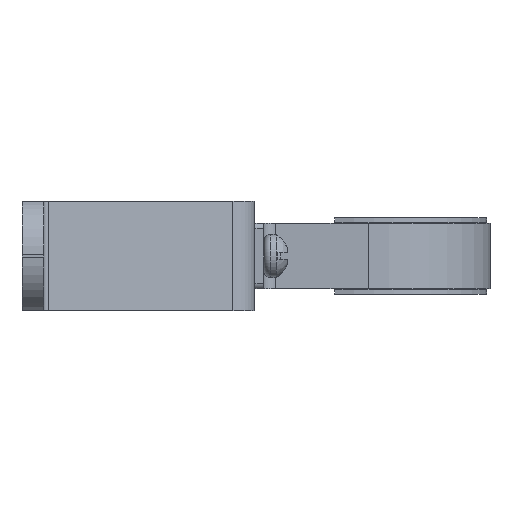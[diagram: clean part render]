
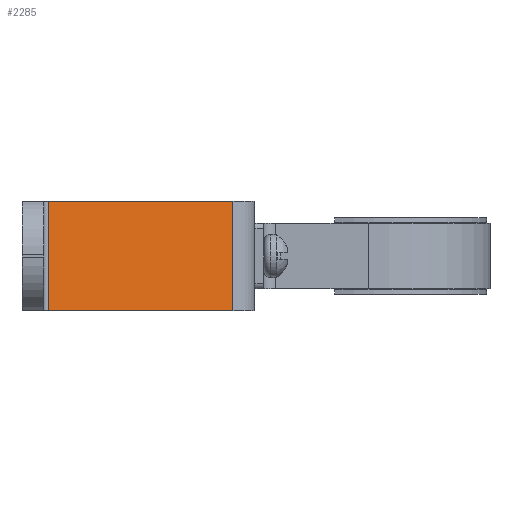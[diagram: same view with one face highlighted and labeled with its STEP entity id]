
A CAD part, front view. The second image highlights one B-rep face of the part: STEP entity #2285.
In plain terms, the highlighted planar face has unit normal (0.215, -0.977, 0).
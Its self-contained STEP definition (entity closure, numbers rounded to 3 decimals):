
#138=PLANE('',#2514);
#243=FACE_OUTER_BOUND('',#368,.T.);
#368=EDGE_LOOP('',(#1963,#1964,#1965,#1966));
#524=LINE('',#4061,#708);
#540=LINE('',#4111,#724);
#544=LINE('',#4124,#728);
#545=LINE('',#4126,#729);
#708=VECTOR('',#2991,10.);
#724=VECTOR('',#3033,10.);
#728=VECTOR('',#3047,10.);
#729=VECTOR('',#3050,10.);
#1054=VERTEX_POINT('',#4058);
#1055=VERTEX_POINT('',#4060);
#1075=VERTEX_POINT('',#4108);
#1076=VERTEX_POINT('',#4110);
#1359=EDGE_CURVE('',#1054,#1055,#524,.T.);
#1385=EDGE_CURVE('',#1075,#1076,#540,.T.);
#1392=EDGE_CURVE('',#1055,#1075,#544,.T.);
#1393=EDGE_CURVE('',#1054,#1076,#545,.T.);
#1963=ORIENTED_EDGE('',*,*,#1393,.T.);
#1964=ORIENTED_EDGE('',*,*,#1385,.F.);
#1965=ORIENTED_EDGE('',*,*,#1392,.F.);
#1966=ORIENTED_EDGE('',*,*,#1359,.F.);
#2285=ADVANCED_FACE('',(#243),#138,.T.);
#2514=AXIS2_PLACEMENT_3D('',#4125,#3048,#3049);
#2991=DIRECTION('',(-0.977,-0.215,0.));
#3033=DIRECTION('',(0.977,0.215,0.));
#3047=DIRECTION('',(0.,0.,1.));
#3048=DIRECTION('center_axis',(0.215,-0.977,0.));
#3049=DIRECTION('ref_axis',(0.977,0.215,0.));
#3050=DIRECTION('',(0.,0.,1.));
#4058=CARTESIAN_POINT('',(-24.673,-48.972,-10.));
#4060=CARTESIAN_POINT('',(-58.483,-56.434,-10.));
#4061=CARTESIAN_POINT('',(-58.483,-56.434,-10.));
#4108=CARTESIAN_POINT('',(-58.483,-56.434,10.));
#4110=CARTESIAN_POINT('',(-24.673,-48.972,10.));
#4111=CARTESIAN_POINT('',(-58.483,-56.434,10.));
#4124=CARTESIAN_POINT('',(-58.483,-56.434,0.));
#4125=CARTESIAN_POINT('Origin',(-58.483,-56.434,0.));
#4126=CARTESIAN_POINT('',(-24.673,-48.972,0.));
